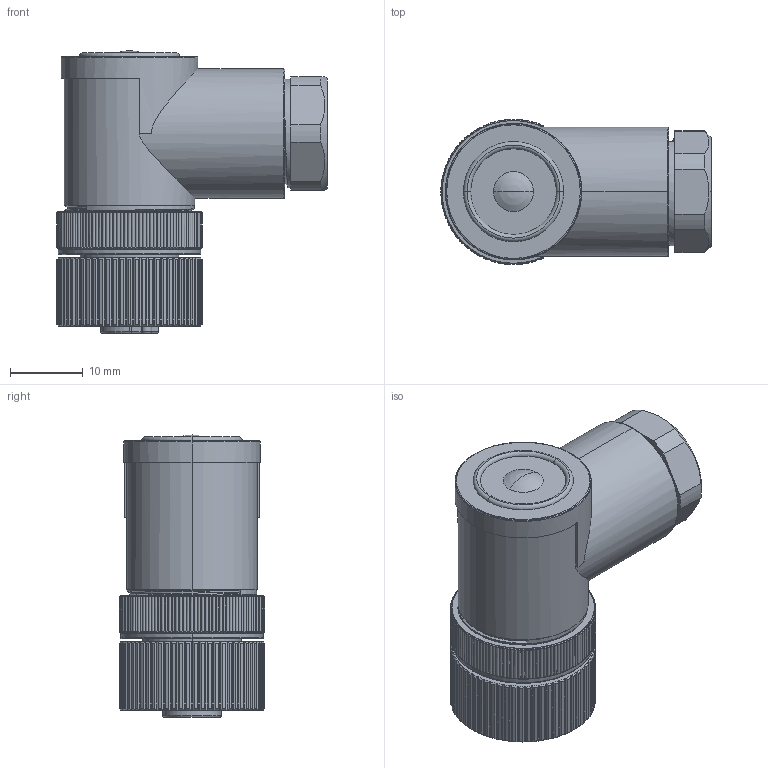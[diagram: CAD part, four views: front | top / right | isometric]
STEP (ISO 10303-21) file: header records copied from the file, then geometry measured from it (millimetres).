
FILE_DESCRIPTION((''),'2;1');
FILE_NAME('XC-M12-RWK-PG9','2025-06-21T14:37:29',('lyj'),(''),'CREO PARAMETRIC BY PTC INC, 2019010','CREO PARAMETRIC BY PTC INC, 2019010','');
FILE_SCHEMA(('CONFIG_CONTROL_DESIGN'));
Length unit declared in the file: millimetre
Products named in the file (1): XC-M12-RWK-PG9
Bounding box: 37.2 x 20 x 38.9 mm (x, y, z)
Volume: 9811.7 mm3; surface area: 12458.1 mm2
Topology: 2 solids, 13 shells, 1661 faces, 4492 edges, 2899 vertices
Faces by surface type: cylinder 648, plane 442, cone 432, bspline 58, torus 48, extrusion 29, sphere 4
Entity records: 84562 total; most frequent: CARTESIAN_POINT 44526, ORIENTED_EDGE 8976, DIRECTION 7667, EDGE_CURVE 4488, AXIS2_PLACEMENT_3D 3076, VERTEX_POINT 2899, EDGE_LOOP 1753, FACE_OUTER_BOUND 1661
